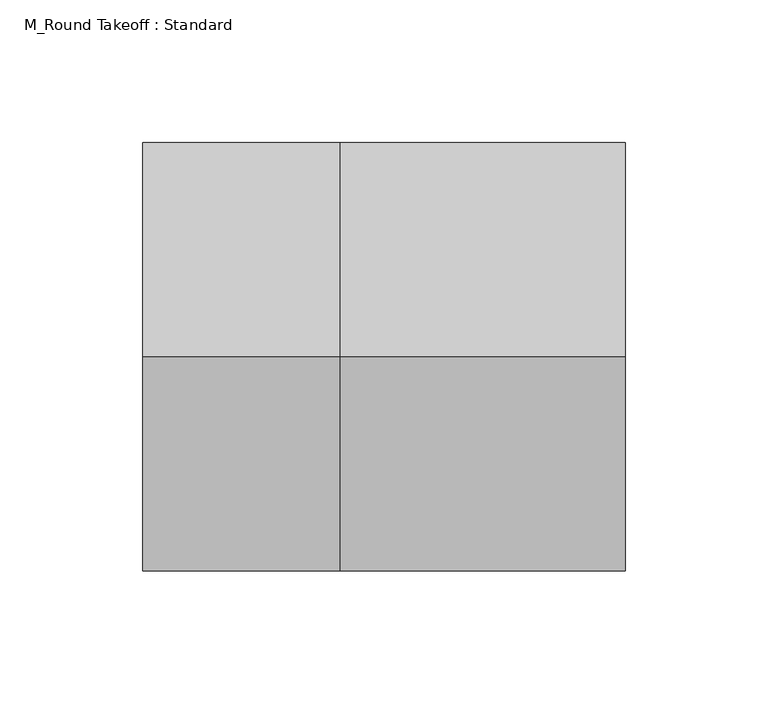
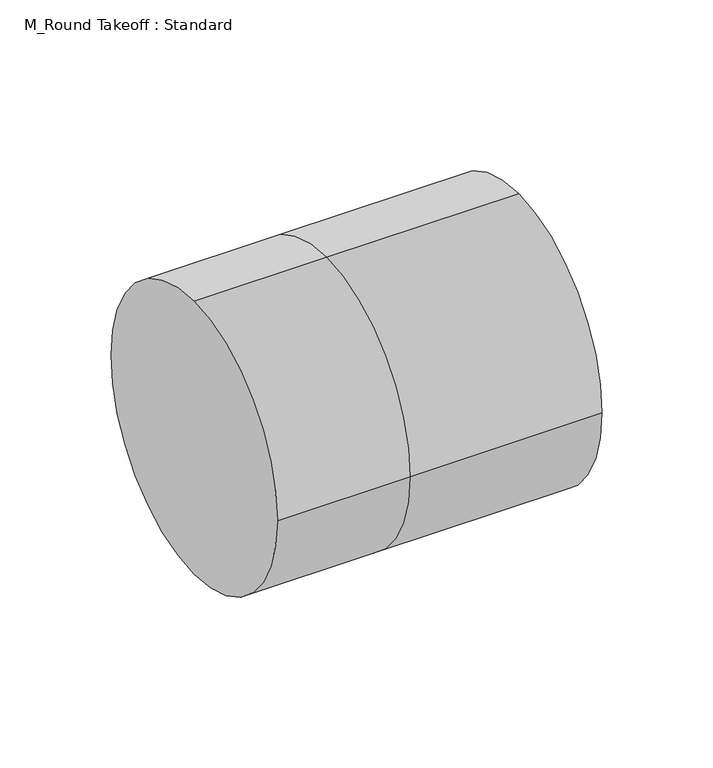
"""IFC4 building model written with IfcOpenShell, lengths in millimetres: duct fitting geometry, M_Round Takeoff : Standard."""

from ifc_helpers import new_model, si_unit, frame, origin, place, context, project, spatial, circle_curve, source, transform, mapped, element, save
from ifc_brep_helpers import plane_surface, cylinder_surface, advanced_brep


def m_round_takeoff_standard_f7a00ffe(model_context):
    return source(origin(), model_context, "Body", "AdvancedBrep", [
        advanced_brep(
        [(-68.904, 0.0, 75.0), (-68.904, 75.0, 0.0), (-68.904, 0.0, -75.0), (-68.904, -75.0, 0.0), (0.0, -75.0, 0.0), (0.0, 0.0, 75.0), (0.0, 0.0, -75.0), (0.0, 75.0, 0.0), (100.0, 0.0, 75.0), (100.0, -75.0, 0.0), (100.0, 0.0, -75.0), (100.0, 75.0, 0.0)],
        [
            (0, 1, circle_curve(frame((-68.904, 0.0, 0.0), z_axis=(-1.0, 0.0, 0.0), x_axis=(0.0, -1.0, 0.0)), 75.0)),
            (1, 2, circle_curve(frame((-68.904, 0.0, 0.0), z_axis=(-1.0, 0.0, 0.0), x_axis=(0.0, -1.0, 0.0)), 75.0)),
            (2, 3, circle_curve(frame((-68.904, 0.0, 0.0), z_axis=(-1.0, 0.0, 0.0), x_axis=(0.0, -1.0, 0.0)), 75.0)),
            (3, 0, circle_curve(frame((-68.904, 0.0, 0.0), z_axis=(-1.0, 0.0, 0.0), x_axis=(0.0, -1.0, 0.0)), 75.0)),
            (3, 4),
            (4, 5, circle_curve(frame((0.0, 0.0, 0.0), z_axis=(-1.0, 0.0, 0.0), x_axis=(0.0, -1.0, 0.0)), 75.0)),
            (5, 0),
            (2, 6),
            (6, 4, circle_curve(frame((0.0, 0.0, 0.0), z_axis=(-1.0, 0.0, 0.0), x_axis=(0.0, -1.0, 0.0)), 75.0)),
            (1, 7),
            (7, 6, circle_curve(frame((0.0, 0.0, 0.0), z_axis=(-1.0, 0.0, 0.0), x_axis=(0.0, -1.0, 0.0)), 75.0)),
            (5, 7, circle_curve(frame((0.0, 0.0, 0.0), z_axis=(-1.0, 0.0, 0.0), x_axis=(0.0, -1.0, 0.0)), 75.0)),
            (8, 9, circle_curve(frame((100.0, 0.0, 0.0), z_axis=(1.0, 0.0, 0.0), x_axis=(0.0, -1.0, 0.0)), 75.0)),
            (9, 10, circle_curve(frame((100.0, 0.0, 0.0), z_axis=(1.0, 0.0, 0.0), x_axis=(0.0, -1.0, 0.0)), 75.0)),
            (10, 11, circle_curve(frame((100.0, 0.0, 0.0), z_axis=(1.0, 0.0, 0.0), x_axis=(0.0, -1.0, 0.0)), 75.0)),
            (11, 8, circle_curve(frame((100.0, 0.0, 0.0), z_axis=(1.0, 0.0, 0.0), x_axis=(0.0, -1.0, 0.0)), 75.0)),
            (8, 5),
            (4, 9),
            (6, 10),
            (7, 11),
        ],
        [
            plane_surface(frame((-68.904, 0.0, 0.0), z_axis=(-1.0, 0.0, 0.0), x_axis=(0.0, 0.0, 1.0))),
            cylinder_surface(frame((-68.904, 0.0, 0.0), z_axis=(-1.0, 0.0, 0.0), x_axis=(0.0, -1.0, 0.0)), 75.0),
            plane_surface(frame((100.0, 0.0, 0.0), z_axis=(1.0, 0.0, 0.0), x_axis=(0.0, 0.0, 1.0))),
            cylinder_surface(frame((0.0, 0.0, 0.0), z_axis=(-1.0, 0.0, 0.0), x_axis=(0.0, -1.0, 0.0)), 75.0),
        ],
        [
            (0, [[1, 2, 3, 4]]),
            (1, [[5, 6, 7, -4]]),
            (1, [[8, 9, -5, -3]]),
            (1, [[10, 11, -8, -2]]),
            (1, [[-7, 12, -10, -1]]),
            (2, [[13, 14, 15, 16]]),
            (3, [[17, -6, 18, -13]]),
            (3, [[-18, -9, 19, -14]]),
            (3, [[-19, -11, 20, -15]]),
            (3, [[-20, -12, -17, -16]]),
        ],
    ),
        advanced_brep(
        [(100.0, 0.0, 75.0), (100.0, -75.0, 0.0), (100.0, 0.0, -75.0), (100.0, 75.0, 0.0), (0.0, 0.0, 75.0), (0.0, -75.0, 0.0), (0.0, 0.0, -75.0), (0.0, 75.0, 0.0), (-68.904, 0.0, 75.0), (-68.904, 75.0, 0.0), (-68.904, 0.0, -75.0), (-68.904, -75.0, 0.0)],
        [
            (0, 1, circle_curve(frame((100.0, 0.0, 0.0), z_axis=(1.0, 0.0, 0.0), x_axis=(0.0, -1.0, 0.0)), 75.0)),
            (1, 2, circle_curve(frame((100.0, 0.0, 0.0), z_axis=(1.0, 0.0, 0.0), x_axis=(0.0, -1.0, 0.0)), 75.0)),
            (2, 3, circle_curve(frame((100.0, 0.0, 0.0), z_axis=(1.0, 0.0, 0.0), x_axis=(0.0, -1.0, 0.0)), 75.0)),
            (3, 0, circle_curve(frame((100.0, 0.0, 0.0), z_axis=(1.0, 0.0, 0.0), x_axis=(0.0, -1.0, 0.0)), 75.0)),
            (0, 4),
            (4, 5, circle_curve(frame((0.0, 0.0, 0.0), z_axis=(1.0, 0.0, 0.0), x_axis=(0.0, -1.0, 0.0)), 75.0)),
            (5, 1),
            (5, 6, circle_curve(frame((0.0, 0.0, 0.0), z_axis=(1.0, 0.0, 0.0), x_axis=(0.0, -1.0, 0.0)), 75.0)),
            (6, 2),
            (6, 7, circle_curve(frame((0.0, 0.0, 0.0), z_axis=(1.0, 0.0, 0.0), x_axis=(0.0, -1.0, 0.0)), 75.0)),
            (7, 3),
            (7, 4, circle_curve(frame((0.0, 0.0, 0.0), z_axis=(1.0, 0.0, 0.0), x_axis=(0.0, -1.0, 0.0)), 75.0)),
            (8, 9, circle_curve(frame((-68.904, 0.0, 0.0), z_axis=(-1.0, 0.0, 0.0), x_axis=(0.0, -1.0, 0.0)), 75.0)),
            (9, 10, circle_curve(frame((-68.904, 0.0, 0.0), z_axis=(-1.0, 0.0, 0.0), x_axis=(0.0, -1.0, 0.0)), 75.0)),
            (10, 11, circle_curve(frame((-68.904, 0.0, 0.0), z_axis=(-1.0, 0.0, 0.0), x_axis=(0.0, -1.0, 0.0)), 75.0)),
            (11, 8, circle_curve(frame((-68.904, 0.0, 0.0), z_axis=(-1.0, 0.0, 0.0), x_axis=(0.0, -1.0, 0.0)), 75.0)),
            (11, 5),
            (4, 8),
            (10, 6),
            (9, 7),
        ],
        [
            plane_surface(frame((100.0, 0.0, 0.0), z_axis=(1.0, 0.0, 0.0), x_axis=(0.0, 0.0, 1.0))),
            cylinder_surface(frame((0.0, 0.0, 0.0), z_axis=(-1.0, 0.0, 0.0), x_axis=(0.0, -1.0, 0.0)), 75.0),
            plane_surface(frame((-68.904, 0.0, 0.0), z_axis=(-1.0, 0.0, 0.0), x_axis=(0.0, 0.0, 1.0))),
            cylinder_surface(frame((-68.904, 0.0, 0.0), z_axis=(-1.0, 0.0, 0.0), x_axis=(0.0, -1.0, 0.0)), 75.0),
        ],
        [
            (0, [[1, 2, 3, 4]]),
            (1, [[5, 6, 7, -1]]),
            (1, [[-7, 8, 9, -2]]),
            (1, [[-9, 10, 11, -3]]),
            (1, [[-11, 12, -5, -4]]),
            (2, [[13, 14, 15, 16]]),
            (3, [[17, -6, 18, -16]]),
            (3, [[19, -8, -17, -15]]),
            (3, [[20, -10, -19, -14]]),
            (3, [[-18, -12, -20, -13]]),
        ],
    ),
        advanced_brep(
        [(-68.904, 0.0, 75.0), (-68.904, 75.0, 0.0), (-68.904, 0.0, -75.0), (-68.904, -75.0, 0.0), (0.0, -75.0, 0.0), (0.0, 0.0, 75.0), (0.0, 0.0, -75.0), (0.0, 75.0, 0.0), (100.0, 0.0, 75.0), (100.0, -75.0, 0.0), (100.0, 0.0, -75.0), (100.0, 75.0, 0.0)],
        [
            (0, 1, circle_curve(frame((-68.904, 0.0, 0.0), z_axis=(-1.0, 0.0, 0.0), x_axis=(0.0, -1.0, 0.0)), 75.0)),
            (1, 2, circle_curve(frame((-68.904, 0.0, 0.0), z_axis=(-1.0, 0.0, 0.0), x_axis=(0.0, -1.0, 0.0)), 75.0)),
            (2, 3, circle_curve(frame((-68.904, 0.0, 0.0), z_axis=(-1.0, 0.0, 0.0), x_axis=(0.0, -1.0, 0.0)), 75.0)),
            (3, 0, circle_curve(frame((-68.904, 0.0, 0.0), z_axis=(-1.0, 0.0, 0.0), x_axis=(0.0, -1.0, 0.0)), 75.0)),
            (3, 4),
            (4, 5, circle_curve(frame((0.0, 0.0, 0.0), z_axis=(-1.0, 0.0, 0.0), x_axis=(0.0, -1.0, 0.0)), 75.0)),
            (5, 0),
            (2, 6),
            (6, 4, circle_curve(frame((0.0, 0.0, 0.0), z_axis=(-1.0, 0.0, 0.0), x_axis=(0.0, -1.0, 0.0)), 75.0)),
            (1, 7),
            (7, 6, circle_curve(frame((0.0, 0.0, 0.0), z_axis=(-1.0, 0.0, 0.0), x_axis=(0.0, -1.0, 0.0)), 75.0)),
            (5, 7, circle_curve(frame((0.0, 0.0, 0.0), z_axis=(-1.0, 0.0, 0.0), x_axis=(0.0, -1.0, 0.0)), 75.0)),
            (8, 9, circle_curve(frame((100.0, 0.0, 0.0), z_axis=(1.0, 0.0, 0.0), x_axis=(0.0, -1.0, 0.0)), 75.0)),
            (9, 10, circle_curve(frame((100.0, 0.0, 0.0), z_axis=(1.0, 0.0, 0.0), x_axis=(0.0, -1.0, 0.0)), 75.0)),
            (10, 11, circle_curve(frame((100.0, 0.0, 0.0), z_axis=(1.0, 0.0, 0.0), x_axis=(0.0, -1.0, 0.0)), 75.0)),
            (11, 8, circle_curve(frame((100.0, 0.0, 0.0), z_axis=(1.0, 0.0, 0.0), x_axis=(0.0, -1.0, 0.0)), 75.0)),
            (8, 5),
            (4, 9),
            (6, 10),
            (7, 11),
        ],
        [
            plane_surface(frame((-68.904, 0.0, 0.0), z_axis=(-1.0, 0.0, 0.0), x_axis=(0.0, 0.0, 1.0))),
            cylinder_surface(frame((-68.904, 0.0, 0.0), z_axis=(-1.0, 0.0, 0.0), x_axis=(0.0, -1.0, 0.0)), 75.0),
            plane_surface(frame((100.0, 0.0, 0.0), z_axis=(1.0, 0.0, 0.0), x_axis=(0.0, 0.0, 1.0))),
            cylinder_surface(frame((0.0, 0.0, 0.0), z_axis=(-1.0, 0.0, 0.0), x_axis=(0.0, -1.0, 0.0)), 75.0),
        ],
        [
            (0, [[1, 2, 3, 4]]),
            (1, [[5, 6, 7, -4]]),
            (1, [[8, 9, -5, -3]]),
            (1, [[10, 11, -8, -2]]),
            (1, [[-7, 12, -10, -1]]),
            (2, [[13, 14, 15, 16]]),
            (3, [[17, -6, 18, -13]]),
            (3, [[-18, -9, 19, -14]]),
            (3, [[-19, -11, 20, -15]]),
            (3, [[-20, -12, -17, -16]]),
        ],
    ),
    ])


if __name__ == "__main__":
    model = new_model("IFC4")
    model_context = context("Model", 3, world=origin())
    ifc_project = project(units=[si_unit("LENGTHUNIT", "METRE", prefix="MILLI")], contexts=[model_context])
    site = spatial("IfcSite", under=ifc_project)
    building = spatial("IfcBuilding", under=site)
    placement = place(None, origin())
    m_round_takeoff_standard_shape = m_round_takeoff_standard_f7a00ffe(model_context)
    element("IfcDuctFitting", 1, ObjectType="M_Round Takeoff : Standard", at=placement, inside=building, context=model_context, shape_type="MappedRepresentation", body=[
        mapped(m_round_takeoff_standard_shape, transform((0.0, 0.0, 0.0), x_axis=(1.0, 0.0, 0.0), y_axis=(0.0, 1.0, 0.0), z_axis=(0.0, 0.0, 1.0))),
    ])
    save(model, "model.ifc")
